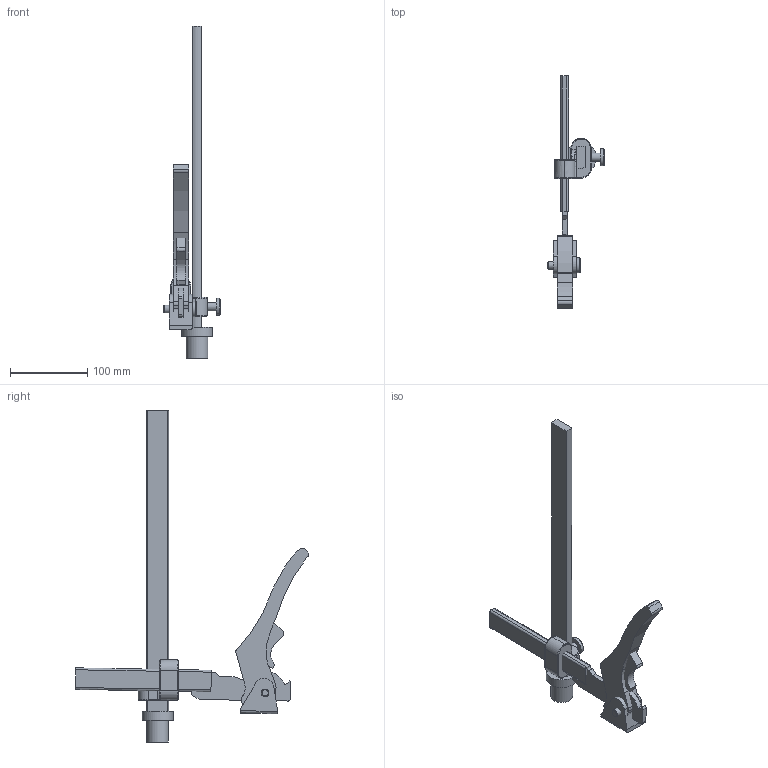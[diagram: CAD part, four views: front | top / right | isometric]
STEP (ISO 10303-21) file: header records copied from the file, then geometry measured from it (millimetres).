
FILE_DESCRIPTION( ('This file contains a STEP AP42 implementation' ,'as created by ZW3D STEP Interface translator.') ,'2;1' );
FILE_NAME( 'TWV28-30-17H.stp' ,'14 4 3.151858', (''), ('ZWCAD Software Co.'), 'Version 1.0', 'ZW3D to STEP translator', '' );
FILE_SCHEMA( ('CONFIG_CONTROL_DESIGN') );
Length unit declared in the file: millimetre
Products named in the file (2): 0; TWV28-30-17H
Bounding box: 73 x 301.07 x 429 mm (x, y, z)
Volume: 444127.6 mm3; surface area: 108418.2 mm2
Topology: 11 solids, 11 shells, 166 faces, 386 edges, 237 vertices
Faces by surface type: bspline 166
Entity records: 6770 total; most frequent: CARTESIAN_POINT 4337, ORIENTED_EDGE 764, EDGE_CURVE 382, B_SPLINE_CURVE_WITH_KNOTS 244, VERTEX_POINT 237, EDGE_LOOP 169, FACE_OUTER_BOUND 166, ADVANCED_FACE 166
